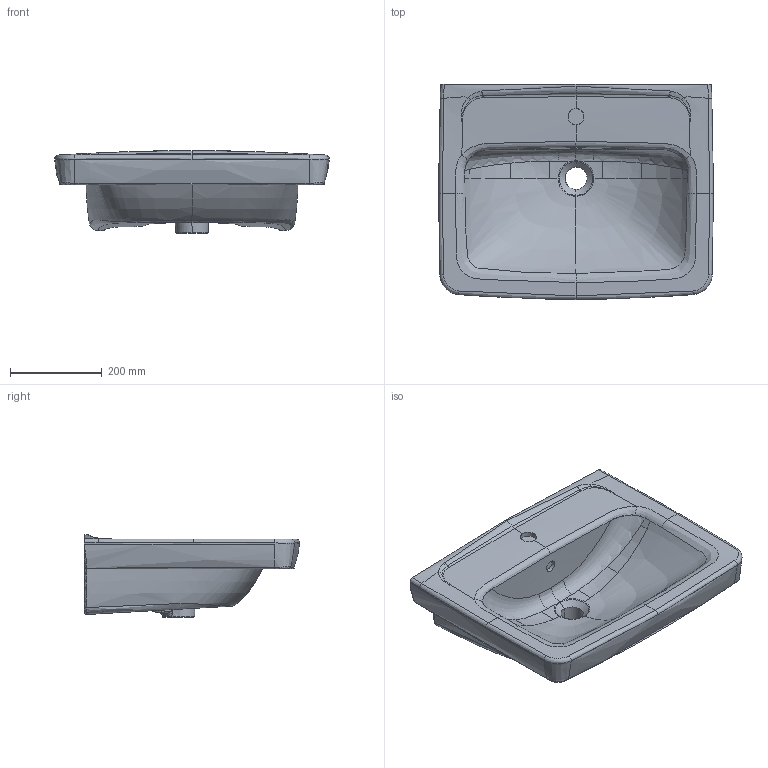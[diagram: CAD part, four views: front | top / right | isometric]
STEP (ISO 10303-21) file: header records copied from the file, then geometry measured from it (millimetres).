
FILE_DESCRIPTION(/* description */ (''),/* implementation_level */ '2;1');
FILE_NAME(/* name */ 'W4A9260_Communikation_Model_01-2021.stp',/* time_stamp */ '2021-05-27T13:04:27+02:00',/* author */ (''),/* organization */ (''),/* preprocessor_version */ 'ST-DEVELOPER v16.7',/* originating_system */ 'SIEMENS PLM Software NX 1863',/* authorisation */ '');
FILE_SCHEMA (('AUTOMOTIVE_DESIGN { 1 0 10303 214 3 1 1 1 }'));
Products named in the file (1): koeb394416B3rip9
Bounding box: 599.91 x 469.89 x 181.1 mm (x, y, z)
Volume: 16534215.9 mm3; surface area: 887483 mm2
Topology: 1 solids, 1 shells, 334 faces, 874 edges, 538 vertices
Faces by surface type: bspline 279, cylinder 15, extrusion 15, plane 12, revolution 4, sphere 4, cone 3, torus 2
Full cylindrical faces by diameter (mm): 25 x1
Entity records: 77412 total; most frequent: CARTESIAN_POINT 71496, ORIENTED_EDGE 1732, EDGE_CURVE 866, B_SPLINE_CURVE_WITH_KNOTS 676, VERTEX_POINT 538, DIRECTION 441, EDGE_LOOP 340, ADVANCED_FACE 334
